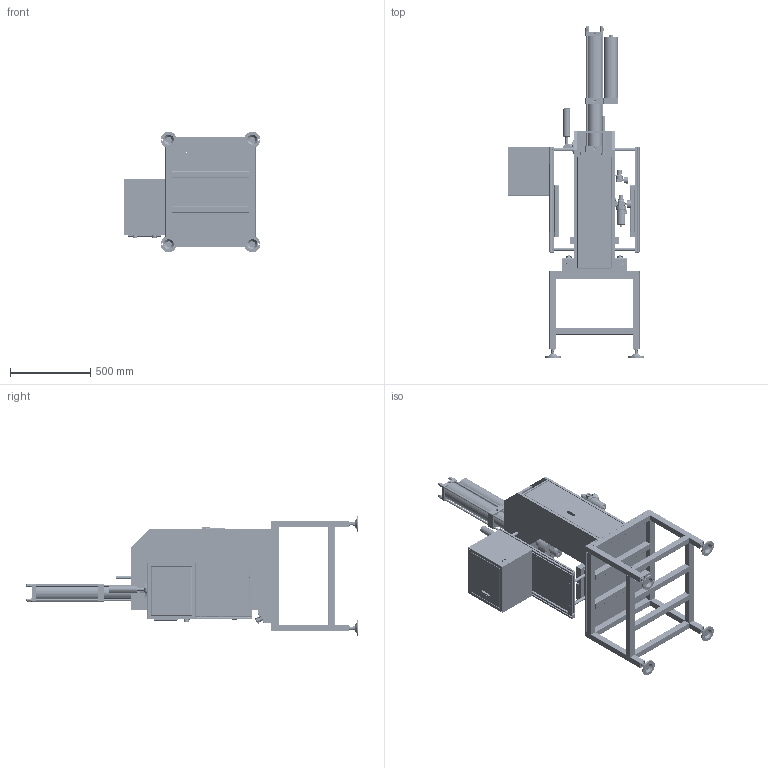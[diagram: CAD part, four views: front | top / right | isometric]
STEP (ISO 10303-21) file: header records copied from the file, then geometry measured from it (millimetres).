
FILE_DESCRIPTION((''),'2;1');
FILE_NAME('ZHENJI_ASM','2026-06-14T19:45:48',('zxb27'),(''),'CREO PARAMETRIC BY PTC INC, 2022164','CREO PARAMETRIC BY PTC INC, 2022164','');
FILE_SCHEMA(('AUTOMOTIVE_DESIGN { 1 0 10303 214 1 1 1 1 }'));
Products named in the file (1): ZHENJI_ASM
Bounding box: 850 x 2064.57 x 750 mm (x, y, z)
Surface area: 10438309.4 mm2 (no closed solid volume)
Topology: 0 solids, 137 shells, 9386 faces, 26886 edges, 17500 vertices
Faces by surface type: plane 5725, cylinder 2884, bspline 296, cone 272, torus 152, sphere 39, extrusion 18
Entity records: 480196 total; most frequent: CARTESIAN_POINT 172747, ORIENTED_EDGE 51540, DIRECTION 46694, EDGE_CURVE 26766, VECTOR 17812, LINE 17794, VERTEX_POINT 17500, PRESENTATION_STYLE_ASSIGNMENT 14652
